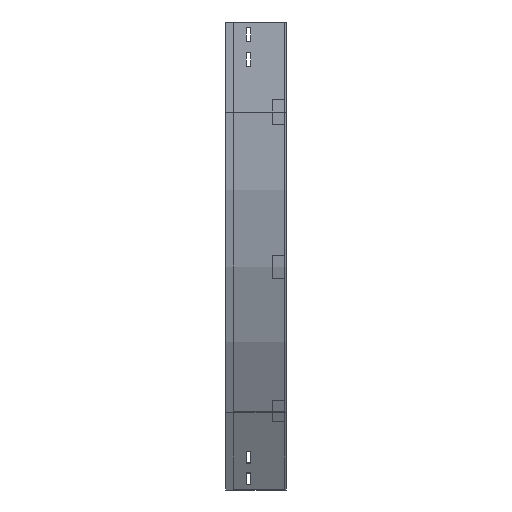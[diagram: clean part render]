
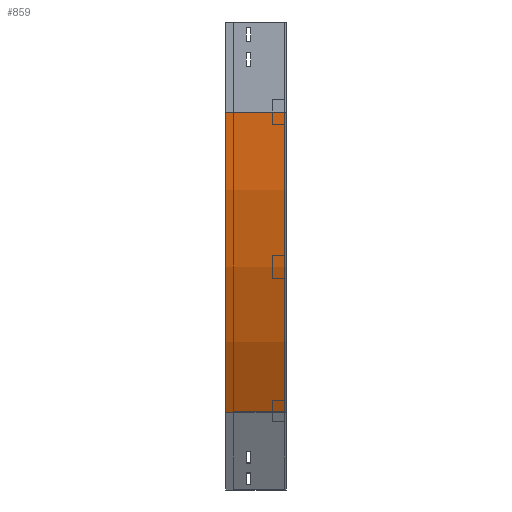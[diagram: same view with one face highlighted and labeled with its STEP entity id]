
A CAD part, left-side view. The second image highlights one B-rep face of the part: STEP entity #859.
In plain terms, the highlighted cylindrical face has radius 1000 mm (diameter 2000 mm), a partial arc.
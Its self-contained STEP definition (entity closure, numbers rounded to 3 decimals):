
#54 = CIRCLE ( 'NONE', #310, 1000. ) ;
#79 = CIRCLE ( 'NONE', #275, 1000. ) ;
#145 = VECTOR ( 'NONE', #837, 1000. ) ;
#153 = DIRECTION ( 'NONE',  ( -1., 0., 0. ) ) ;
#275 = AXIS2_PLACEMENT_3D ( 'NONE', #756, #3375, #439 ) ;
#310 = AXIS2_PLACEMENT_3D ( 'NONE', #1697, #1950, #153 ) ;
#370 = DIRECTION ( 'NONE',  ( 0., 0., -1. ) ) ;
#439 = DIRECTION ( 'NONE',  ( -1., 0., 0. ) ) ;
#531 = ORIENTED_EDGE ( 'NONE', *, *, #3096, .T. ) ;
#711 = CARTESIAN_POINT ( 'NONE',  ( 0., 0., -150. ) ) ;
#756 = CARTESIAN_POINT ( 'NONE',  ( 1000., 100., -150. ) ) ;
#837 = DIRECTION ( 'NONE',  ( 0., -1., 0. ) ) ;
#859 = ADVANCED_FACE ( 'NONE', ( #2022 ), #3187, .T. ) ;
#1028 = EDGE_CURVE ( 'NONE', #1833, #1546, #54, .T. ) ;
#1142 = CARTESIAN_POINT ( 'NONE',  ( 133.975, 0., -650. ) ) ;
#1428 = LINE ( 'NONE', #2573, #3113 ) ;
#1546 = VERTEX_POINT ( 'NONE', #1142 ) ;
#1589 = CARTESIAN_POINT ( 'NONE',  ( 0., 100., -150. ) ) ;
#1697 = CARTESIAN_POINT ( 'NONE',  ( 1000., 0., -150. ) ) ;
#1702 = EDGE_LOOP ( 'NONE', ( #3820, #3217, #531, #2475 ) ) ;
#1716 = LINE ( 'NONE', #3747, #145 ) ;
#1833 = VERTEX_POINT ( 'NONE', #711 ) ;
#1950 = DIRECTION ( 'NONE',  ( 0., -1., 0. ) ) ;
#2022 = FACE_OUTER_BOUND ( 'NONE', #1702, .T. ) ;
#2067 = AXIS2_PLACEMENT_3D ( 'NONE', #3210, #3556, #370 ) ;
#2111 = CARTESIAN_POINT ( 'NONE',  ( 133.975, 100., -650. ) ) ;
#2294 = DIRECTION ( 'NONE',  ( 0., -1., 0. ) ) ;
#2475 = ORIENTED_EDGE ( 'NONE', *, *, #3366, .T. ) ;
#2538 = VERTEX_POINT ( 'NONE', #1589 ) ;
#2573 = CARTESIAN_POINT ( 'NONE',  ( 133.975, 0., -650. ) ) ;
#3017 = VERTEX_POINT ( 'NONE', #2111 ) ;
#3096 = EDGE_CURVE ( 'NONE', #2538, #3017, #79, .T. ) ;
#3113 = VECTOR ( 'NONE', #2294, 1000. ) ;
#3187 = CYLINDRICAL_SURFACE ( 'NONE', #2067, 1000. ) ;
#3210 = CARTESIAN_POINT ( 'NONE',  ( 1000., 0., -150. ) ) ;
#3217 = ORIENTED_EDGE ( 'NONE', *, *, #3256, .F. ) ;
#3256 = EDGE_CURVE ( 'NONE', #2538, #1833, #1716, .T. ) ;
#3366 = EDGE_CURVE ( 'NONE', #3017, #1546, #1428, .T. ) ;
#3375 = DIRECTION ( 'NONE',  ( 0., -1., 0. ) ) ;
#3556 = DIRECTION ( 'NONE',  ( 0., -1., 0. ) ) ;
#3747 = CARTESIAN_POINT ( 'NONE',  ( 0., 0., -150. ) ) ;
#3820 = ORIENTED_EDGE ( 'NONE', *, *, #1028, .F. ) ;
